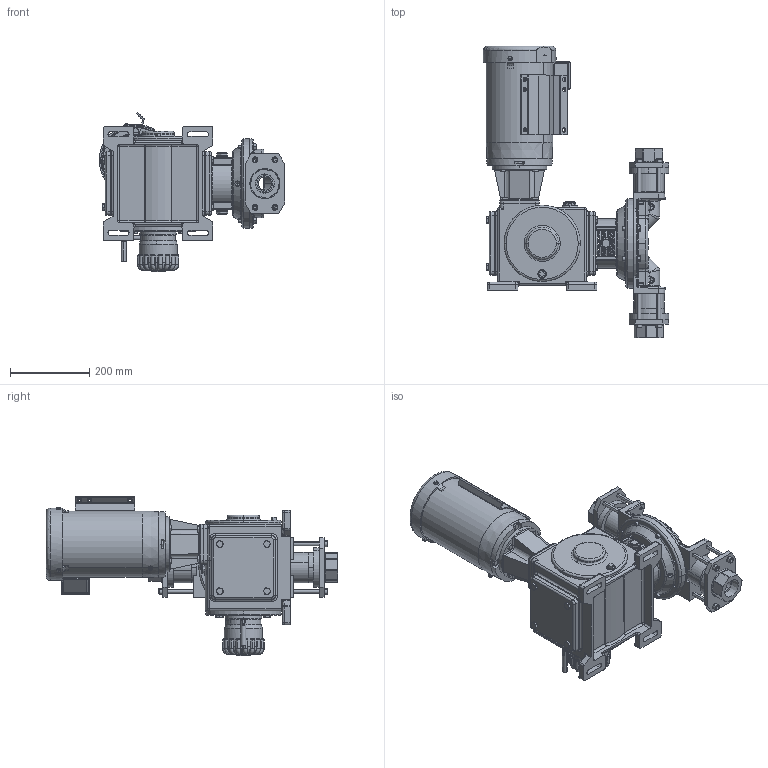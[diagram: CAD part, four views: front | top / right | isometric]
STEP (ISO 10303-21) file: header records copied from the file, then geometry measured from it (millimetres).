
FILE_DESCRIPTION (( 'STEP AP203' ), '1' );
FILE_NAME ('DM7J3AH.STEP', '2025-03-21T12:11:54', ( '' ), ( '' ), 'SwSTEP 2.0', 'SolidWorks 2023', '' );
FILE_SCHEMA (( 'CONFIG_CONTROL_DESIGN' ));
Products named in the file (1): DM7J3AH
Bounding box: 467.46 x 735.49 x 402.42 mm (x, y, z)
Surface area: 1223453.9 mm2 (no closed solid volume)
Topology: 0 solids, 203 shells, 2291 faces, 9822 edges, 7448 vertices
Faces by surface type: plane 902, cylinder 664, bspline 273, torus 223, cone 185, sphere 44
Entity records: 128681 total; most frequent: CARTESIAN_POINT 53908, DIRECTION 14125, ORIENTED_EDGE 14038, EDGE_CURVE 9737, VERTEX_POINT 7448, VECTOR 5193, LINE 5193, AXIS2_PLACEMENT_3D 4466
